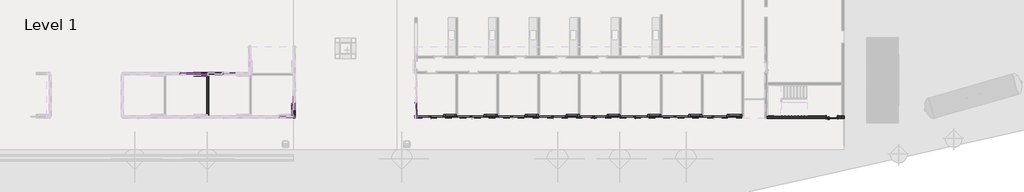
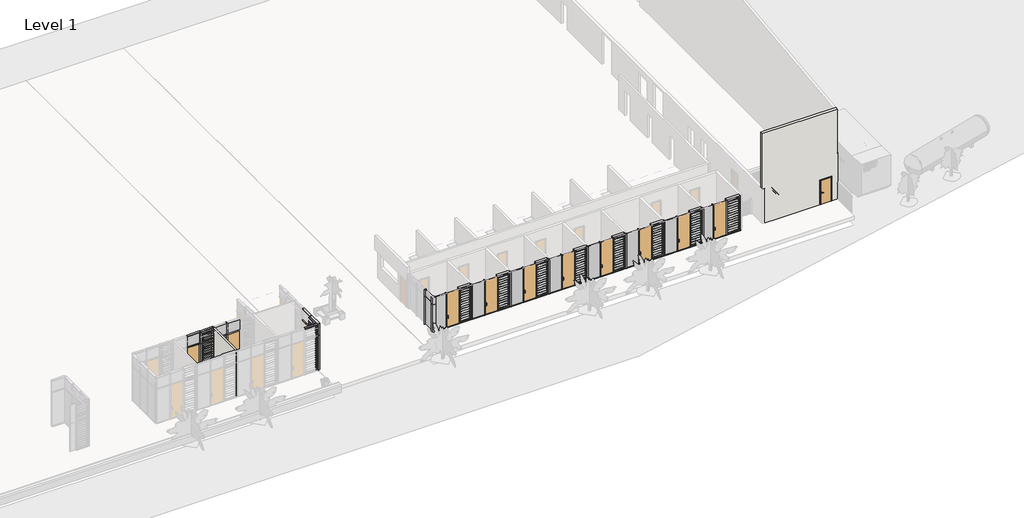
# One storey, part 7 of 32: 73 members, 26 plates, 11 doors, 2 walls.
"""IFC4 building model written with IfcOpenShell, lengths in millimetres."""

from ifc_helpers import new_model, si_unit, frame, origin, place, context, project, spatial, polyline, outline, extrude, faceted_brep, transform, mapped, element, save
from components import curtain_wall_door_single_glass_nz_curtain_wall_door_single_2bf20aac, curtain_wall_door_single_glass_nz_curtain_wall_door_single_d322cbbd, curtain_wall_door_single_glass_nz_curtain_wall_door_single_3e4811c4, curtain_wall_door_single_glass_nz_curtain_wall_door_single_aa36e8cf, curtain_wall_door_single_glass_nz_curtain_wall_door_single_b61deed2, curtain_wall_door_single_glass_nz_curtain_wall_door_single_26af021f, doors_intsgl_1_910x2110mm_80b4a4db, l_corner_mullion_150x150mm_5d950604, l_corner_mullion_150x150mm_810fe6ea, rectangular_mullion_50x150mm_c4504768, rectangular_mullion_50x150mm_6c7cb899, rectangular_mullion_50x150mm_b0af8bb0, rectangular_mullion_50x150mm_bbc1c4ea, rectangular_mullion_50x150mm_1a36453b, rectangular_mullion_50x150mm_108cdc6f, rectangular_mullion_50x150mm_9127f1a2, rectangular_mullion_50x150mm_f3e307f6, rectangular_mullion_50x150mm_ba38f846, rectangular_mullion_50x150mm_f10c6004, rectangular_mullion_50x150mm_11d487aa, rectangular_mullion_50x150mm_eeb88b28, rectangular_mullion_50x150mm_9b1202a5, rectangular_mullion_50x150mm_bb8f6a57, rectangular_mullion_50x150mm_7b3c9b78, rectangular_mullion_50x150mm_370dcb64, rectangular_mullion_50x150mm_0d540e17, rectangular_mullion_50x150mm_1881577e, rectangular_mullion_50x150mm_68c91185, rectangular_mullion_50x150mm_6225e4e3, rectangular_mullion_50x150mm_68b3818a, curtain_wall_panel_louver_20805_curtain_wall_panel_louver_4af505d4, curtain_wall_panel_louver_20805_curtain_wall_panel_louver_10796ba8, curtain_wall_panel_glass_louver_20805_curtain_wall_panel_036772b2, curtain_wall_panel_glass_louver_20805_curtain_wall_panel_84bde982, curtain_wall_panel_glass_louver_20805_curtain_wall_panel_126ace13, curtain_wall_panel_glass_louver_20805_curtain_wall_panel_097e2ed9, curtain_wall_panel_glass_louver_20805_curtain_wall_panel_a56f4312, curtain_wall_panel_glass_louver_20805_curtain_wall_panel_7c52035e, curtain_wall_panel_glass_louver_20805_curtain_wall_panel_cdbae222, system_panel_glazed_d56a7fb9, system_panel_glazed_a5e8ce8b, system_panel_glazed_dbd04f36, system_panel_glazed_2b3f69d1, system_panel_glazed_ec733d0a, system_panel_glazed_cc32df39, system_panel_glazed_daea1d03, system_panel_glazed_1be11d23, system_panel_solid_585523e5

model = new_model("IFC4")

# Units and contexts
model_context = context("Model", 3, world=origin())
ifc_project = project(units=[si_unit("LENGTHUNIT", "METRE", prefix="MILLI")], contexts=[model_context])

# Site, building, storey
site = spatial("IfcSite", under=ifc_project)
building = spatial("IfcBuilding", under=site)
storey = spatial("IfcBuildingStorey", under=building, Name="Level 1", Elevation=2800.0)

# Doors
placement = place(None, origin())
curtain_wall_door_single_glass_nz_curtain_wall_door_single_shape = curtain_wall_door_single_glass_nz_curtain_wall_door_single_2bf20aac(model_context)
element("IfcDoor", 1, ObjectType="Curtain Wall Door-Single-Glass (NZ) : Curtain Wall Door-Single-Glass (NZ)", at=placement, inside=storey, context=model_context, shape_type="MappedRepresentation", body=[
    mapped(curtain_wall_door_single_glass_nz_curtain_wall_door_single_shape, transform((-60180.3056755, -29943.4199596, 2850.0), x_axis=(1.0, 0.0, 0.0), y_axis=(0.0, 1.0, 0.0), z_axis=(0.0, 0.0, 1.0))),
])
element("IfcDoor", 2, ObjectType="Curtain Wall Door-Single-Glass (NZ) : Curtain Wall Door-Single-Glass (NZ)", at=placement, inside=storey, context=model_context, shape_type="MappedRepresentation", body=[
    mapped(curtain_wall_door_single_glass_nz_curtain_wall_door_single_shape, transform((-63480.3056756, -29943.4199596, 2850.0), x_axis=(1.0, 0.0, 0.0), y_axis=(0.0, 1.0, 0.0), z_axis=(0.0, 0.0, 1.0))),
])
curtain_wall_door_single_glass_nz_curtain_wall_door_single_2_shape = curtain_wall_door_single_glass_nz_curtain_wall_door_single_d322cbbd(model_context)
element("IfcDoor", 3, ObjectType="Curtain Wall Door-Single-Glass (NZ) : Curtain Wall Door-Single-Glass (NZ)", at=placement, inside=storey, context=model_context, shape_type="MappedRepresentation", body=[
    mapped(curtain_wall_door_single_glass_nz_curtain_wall_door_single_2_shape, transform((-25313.1839353, -33305.9199596, 2850.0), x_axis=(1.0, 0.0, 0.0), y_axis=(0.0, 1.0, 0.0), z_axis=(0.0, 0.0, 1.0))),
])
curtain_wall_door_single_glass_nz_curtain_wall_door_single_3_shape = curtain_wall_door_single_glass_nz_curtain_wall_door_single_3e4811c4(model_context)
element("IfcDoor", 4, ObjectType="Curtain Wall Door-Single-Glass (NZ) : Curtain Wall Door-Single-Glass (NZ)", at=placement, inside=storey, context=model_context, shape_type="MappedRepresentation", body=[
    mapped(curtain_wall_door_single_glass_nz_curtain_wall_door_single_3_shape, transform((-28463.1839353, -33305.9199596, 2850.0), x_axis=(1.0, 0.0, 0.0), y_axis=(0.0, 1.0, 0.0), z_axis=(0.0, 0.0, 1.0))),
])
curtain_wall_door_single_glass_nz_curtain_wall_door_single_4_shape = curtain_wall_door_single_glass_nz_curtain_wall_door_single_aa36e8cf(model_context)
element("IfcDoor", 5, ObjectType="Curtain Wall Door-Single-Glass (NZ) : Curtain Wall Door-Single-Glass (NZ)", at=placement, inside=storey, context=model_context, shape_type="MappedRepresentation", body=[
    mapped(curtain_wall_door_single_glass_nz_curtain_wall_door_single_4_shape, transform((-31610.9339353, -33305.9199596, 2850.0), x_axis=(1.0, 0.0, 0.0), y_axis=(0.0, 1.0, 0.0), z_axis=(0.0, 0.0, 1.0))),
])
element("IfcDoor", 6, ObjectType="Curtain Wall Door-Single-Glass (NZ) : Curtain Wall Door-Single-Glass (NZ)", at=placement, inside=storey, context=model_context, shape_type="MappedRepresentation", body=[
    mapped(curtain_wall_door_single_glass_nz_curtain_wall_door_single_4_shape, transform((-34760.9339353, -33305.9199596, 2850.0), x_axis=(1.0, 0.0, 0.0), y_axis=(0.0, 1.0, 0.0), z_axis=(0.0, 0.0, 1.0))),
])
element("IfcDoor", 7, ObjectType="Curtain Wall Door-Single-Glass (NZ) : Curtain Wall Door-Single-Glass (NZ)", at=placement, inside=storey, context=model_context, shape_type="MappedRepresentation", body=[
    mapped(curtain_wall_door_single_glass_nz_curtain_wall_door_single_4_shape, transform((-37910.9339353, -33305.9199596, 2850.0), x_axis=(1.0, 0.0, 0.0), y_axis=(0.0, 1.0, 0.0), z_axis=(0.0, 0.0, 1.0))),
])
element("IfcDoor", 8, ObjectType="Curtain Wall Door-Single-Glass (NZ) : Curtain Wall Door-Single-Glass (NZ)", at=placement, inside=storey, context=model_context, shape_type="MappedRepresentation", body=[
    mapped(curtain_wall_door_single_glass_nz_curtain_wall_door_single_4_shape, transform((-41060.9339353, -33305.9199596, 2850.0), x_axis=(1.0, 0.0, 0.0), y_axis=(0.0, 1.0, 0.0), z_axis=(0.0, 0.0, 1.0))),
])
curtain_wall_door_single_glass_nz_curtain_wall_door_single_5_shape = curtain_wall_door_single_glass_nz_curtain_wall_door_single_b61deed2(model_context)
element("IfcDoor", 9, ObjectType="Curtain Wall Door-Single-Glass (NZ) : Curtain Wall Door-Single-Glass (NZ)", at=placement, inside=storey, context=model_context, shape_type="MappedRepresentation", body=[
    mapped(curtain_wall_door_single_glass_nz_curtain_wall_door_single_5_shape, transform((-22360.4339354, -33305.9199596, 2850.0), x_axis=(1.0, 0.0, 0.0), y_axis=(0.0, 1.0, 0.0), z_axis=(0.0, 0.0, 1.0))),
])
curtain_wall_door_single_glass_nz_curtain_wall_door_single_6_shape = curtain_wall_door_single_glass_nz_curtain_wall_door_single_26af021f(model_context)
element("IfcDoor", 10, ObjectType="Curtain Wall Door-Single-Glass (NZ) : Curtain Wall Door-Single-Glass (NZ)", at=placement, inside=storey, context=model_context, shape_type="MappedRepresentation", body=[
    mapped(curtain_wall_door_single_glass_nz_curtain_wall_door_single_6_shape, transform((-44198.1839353, -33305.9199596, 2850.0), x_axis=(1.0, 0.0, 0.0), y_axis=(0.0, 1.0, 0.0), z_axis=(0.0, 0.0, 1.0))),
])
doors_intsgl_1_910x2110mm_shape = doors_intsgl_1_910x2110mm_80b4a4db(model_context)
element("IfcDoor", 11, ObjectType="Doors_IntSgl_1 : 910x2110mm", at=placement, inside=storey, context=model_context, shape_type="MappedRepresentation", body=[
    mapped(doors_intsgl_1_910x2110mm_shape, transform((-13730.9339353, -33305.9199596, 2800.0), x_axis=(1.0, 0.0, 0.0), y_axis=(0.0, 1.0, 0.0), z_axis=(0.0, 0.0, 1.0))),
])

# Members
l_corner_mullion_150x150mm_shape = l_corner_mullion_150x150mm_5d950604(model_context)
element("IfcMember", 12, ObjectType="L Corner Mullion : 150x150mm", at=placement, inside=storey, context=model_context, shape_type="MappedRepresentation", body=[
    mapped(l_corner_mullion_150x150mm_shape, transform((-45785.9339353, -33305.9199596, 2800.0), x_axis=(0.0, -1.0, 0.0), y_axis=(-1.0, 0.0, 0.0), z_axis=(0.0, 0.0, -1.0))),
])
l_corner_mullion_150x150mm_2_shape = l_corner_mullion_150x150mm_810fe6ea(model_context)
element("IfcMember", 13, ObjectType="L Corner Mullion : 150x150mm", at=placement, inside=storey, context=model_context, shape_type="MappedRepresentation", body=[
    mapped(l_corner_mullion_150x150mm_2_shape, transform((-45785.9339353, -33305.9199596, 5200.0), x_axis=(0.0, -1.0, 0.0), y_axis=(-1.0, 0.0, 0.0), z_axis=(0.0, 0.0, -1.0))),
])
rectangular_mullion_50x150mm_shape = rectangular_mullion_50x150mm_c4504768(model_context)
element("IfcMember", 14, ObjectType="Rectangular Mullion : 50x150mm", at=placement, inside=storey, context=model_context, shape_type="MappedRepresentation", body=[
    mapped(rectangular_mullion_50x150mm_shape, transform((-61855.3056756, -29943.4199596, 5800.0), x_axis=(0.0, 0.0, 1.0), y_axis=(0.0, -1.0, 0.0), z_axis=(1.0, 0.0, 0.0))),
])
element("IfcMember", 15, ObjectType="Rectangular Mullion : 50x150mm", at=placement, inside=storey, context=model_context, shape_type="MappedRepresentation", body=[
    mapped(rectangular_mullion_50x150mm_shape, transform((-62955.3056756, -29943.4199596, 5800.0), x_axis=(0.0, 0.0, 1.0), y_axis=(0.0, -1.0, 0.0), z_axis=(1.0, 0.0, 0.0))),
])
rectangular_mullion_50x150mm_2_shape = rectangular_mullion_50x150mm_6c7cb899(model_context)
element("IfcMember", 16, ObjectType="Rectangular Mullion : 50x150mm", at=placement, inside=storey, context=model_context, shape_type="MappedRepresentation", body=[
    mapped(rectangular_mullion_50x150mm_2_shape, transform((-60730.3056755, -29943.4199596, 2800.0), x_axis=(1.0, 0.0, 0.0), y_axis=(0.0, -1.0, 0.0), z_axis=(0.0, 0.0, -1.0))),
])
element("IfcMember", 17, ObjectType="Rectangular Mullion : 50x150mm", at=placement, inside=storey, context=model_context, shape_type="MappedRepresentation", body=[
    mapped(rectangular_mullion_50x150mm_2_shape, transform((-61830.3056756, -29943.4199596, 2800.0), x_axis=(1.0, 0.0, 0.0), y_axis=(0.0, -1.0, 0.0), z_axis=(0.0, 0.0, -1.0))),
])
element("IfcMember", 18, ObjectType="Rectangular Mullion : 50x150mm", at=placement, inside=storey, context=model_context, shape_type="MappedRepresentation", body=[
    mapped(rectangular_mullion_50x150mm_2_shape, transform((-62930.3056756, -29943.4199596, 2800.0), x_axis=(1.0, 0.0, 0.0), y_axis=(0.0, -1.0, 0.0), z_axis=(0.0, 0.0, -1.0))),
])
rectangular_mullion_50x150mm_3_shape = rectangular_mullion_50x150mm_b0af8bb0(model_context)
element("IfcMember", 19, ObjectType="Rectangular Mullion : 50x150mm", at=placement, inside=storey, context=model_context, shape_type="MappedRepresentation", body=[
    mapped(rectangular_mullion_50x150mm_3_shape, transform((-61805.3056756, -29943.4199596, 2800.0), x_axis=(0.0, 0.0, -1.0), y_axis=(0.0, -1.0, 0.0), z_axis=(-1.0, 0.0, 0.0))),
])
element("IfcMember", 20, ObjectType="Rectangular Mullion : 50x150mm", at=placement, inside=storey, context=model_context, shape_type="MappedRepresentation", body=[
    mapped(rectangular_mullion_50x150mm_3_shape, transform((-62905.3056756, -29943.4199596, 2800.0), x_axis=(0.0, 0.0, -1.0), y_axis=(0.0, -1.0, 0.0), z_axis=(-1.0, 0.0, 0.0))),
])
rectangular_mullion_50x150mm_4_shape = rectangular_mullion_50x150mm_bbc1c4ea(model_context)
element("IfcMember", 21, ObjectType="Rectangular Mullion : 50x150mm", at=placement, inside=storey, context=model_context, shape_type="MappedRepresentation", body=[
    mapped(rectangular_mullion_50x150mm_4_shape, transform((-60730.3056755, -29943.4199596, 5800.0), x_axis=(1.0, 0.0, 0.0), y_axis=(0.0, -1.0, 0.0), z_axis=(0.0, 0.0, -1.0))),
])
element("IfcMember", 22, ObjectType="Rectangular Mullion : 50x150mm", at=placement, inside=storey, context=model_context, shape_type="MappedRepresentation", body=[
    mapped(rectangular_mullion_50x150mm_4_shape, transform((-61830.3056756, -29943.4199596, 5800.0), x_axis=(1.0, 0.0, 0.0), y_axis=(0.0, -1.0, 0.0), z_axis=(0.0, 0.0, -1.0))),
])
element("IfcMember", 23, ObjectType="Rectangular Mullion : 50x150mm", at=placement, inside=storey, context=model_context, shape_type="MappedRepresentation", body=[
    mapped(rectangular_mullion_50x150mm_4_shape, transform((-62930.3056756, -29943.4199596, 5800.0), x_axis=(1.0, 0.0, 0.0), y_axis=(0.0, -1.0, 0.0), z_axis=(0.0, 0.0, -1.0))),
])
rectangular_mullion_50x150mm_5_shape = rectangular_mullion_50x150mm_1a36453b(model_context)
element("IfcMember", 24, ObjectType="Rectangular Mullion : 50x150mm", at=placement, inside=storey, context=model_context, shape_type="MappedRepresentation", body=[
    mapped(rectangular_mullion_50x150mm_5_shape, transform((-61855.3056756, -29943.4199596, 6800.0), x_axis=(0.0, 0.0, 1.0), y_axis=(0.0, -1.0, 0.0), z_axis=(1.0, 0.0, 0.0))),
])
element("IfcMember", 25, ObjectType="Rectangular Mullion : 50x150mm", at=placement, inside=storey, context=model_context, shape_type="MappedRepresentation", body=[
    mapped(rectangular_mullion_50x150mm_5_shape, transform((-62955.3056756, -29943.4199596, 6800.0), x_axis=(0.0, 0.0, 1.0), y_axis=(0.0, -1.0, 0.0), z_axis=(1.0, 0.0, 0.0))),
])
rectangular_mullion_50x150mm_6_shape = rectangular_mullion_50x150mm_108cdc6f(model_context)
element("IfcMember", 26, ObjectType="Rectangular Mullion : 50x150mm", at=placement, inside=storey, context=model_context, shape_type="MappedRepresentation", body=[
    mapped(rectangular_mullion_50x150mm_6_shape, transform((-22885.4339354, -33305.9199596, 2800.0), x_axis=(0.0, 0.0, -1.0), y_axis=(0.0, -1.0, 0.0), z_axis=(-1.0, 0.0, 0.0))),
])
rectangular_mullion_50x150mm_7_shape = rectangular_mullion_50x150mm_9127f1a2(model_context)
element("IfcMember", 27, ObjectType="Rectangular Mullion : 50x150mm", at=placement, inside=storey, context=model_context, shape_type="MappedRepresentation", body=[
    mapped(rectangular_mullion_50x150mm_7_shape, transform((-21785.4339354, -33305.9199596, 2800.0), x_axis=(0.0, 0.0, -1.0), y_axis=(0.0, -1.0, 0.0), z_axis=(-1.0, 0.0, 0.0))),
])
rectangular_mullion_50x150mm_8_shape = rectangular_mullion_50x150mm_f3e307f6(model_context)
element("IfcMember", 28, ObjectType="Rectangular Mullion : 50x150mm", at=placement, inside=storey, context=model_context, shape_type="MappedRepresentation", body=[
    mapped(rectangular_mullion_50x150mm_8_shape, transform((-23710.9339353, -33305.9199596, 2800.0), x_axis=(0.0, 0.0, -1.0), y_axis=(0.0, -1.0, 0.0), z_axis=(-1.0, 0.0, 0.0))),
])
rectangular_mullion_50x150mm_9_shape = rectangular_mullion_50x150mm_ba38f846(model_context)
element("IfcMember", 29, ObjectType="Rectangular Mullion : 50x150mm", at=placement, inside=storey, context=model_context, shape_type="MappedRepresentation", body=[
    mapped(rectangular_mullion_50x150mm_9_shape, transform((-26865.4339354, -33305.9199596, 2800.0), x_axis=(0.0, 0.0, -1.0), y_axis=(0.0, -1.0, 0.0), z_axis=(-1.0, 0.0, 0.0))),
])
element("IfcMember", 30, ObjectType="Rectangular Mullion : 50x150mm", at=placement, inside=storey, context=model_context, shape_type="MappedRepresentation", body=[
    mapped(rectangular_mullion_50x150mm_9_shape, transform((-24762.4339353, -33305.9199596, 2800.0), x_axis=(0.0, 0.0, -1.0), y_axis=(0.0, -1.0, 0.0), z_axis=(-1.0, 0.0, 0.0))),
])
element("IfcMember", 31, ObjectType="Rectangular Mullion : 50x150mm", at=placement, inside=storey, context=model_context, shape_type="MappedRepresentation", body=[
    mapped(rectangular_mullion_50x150mm_9_shape, transform((-25813.9339353, -33305.9199596, 2800.0), x_axis=(0.0, 0.0, -1.0), y_axis=(0.0, -1.0, 0.0), z_axis=(-1.0, 0.0, 0.0))),
])
rectangular_mullion_50x150mm_10_shape = rectangular_mullion_50x150mm_f10c6004(model_context)
element("IfcMember", 32, ObjectType="Rectangular Mullion : 50x150mm", at=placement, inside=storey, context=model_context, shape_type="MappedRepresentation", body=[
    mapped(rectangular_mullion_50x150mm_10_shape, transform((-45635.9339353, -33305.9199596, 2800.0), x_axis=(0.0, 0.0, -1.0), y_axis=(0.0, -1.0, 0.0), z_axis=(-1.0, 0.0, 0.0))),
])
rectangular_mullion_50x150mm_11_shape = rectangular_mullion_50x150mm_11d487aa(model_context)
element("IfcMember", 33, ObjectType="Rectangular Mullion : 50x150mm", at=placement, inside=storey, context=model_context, shape_type="MappedRepresentation", body=[
    mapped(rectangular_mullion_50x150mm_11_shape, transform((-44702.4339353, -33305.9199596, 2800.0), x_axis=(0.0, 0.0, -1.0), y_axis=(0.0, -1.0, 0.0), z_axis=(-1.0, 0.0, 0.0))),
])
rectangular_mullion_50x150mm_12_shape = rectangular_mullion_50x150mm_eeb88b28(model_context)
element("IfcMember", 34, ObjectType="Rectangular Mullion : 50x150mm", at=placement, inside=storey, context=model_context, shape_type="MappedRepresentation", body=[
    mapped(rectangular_mullion_50x150mm_12_shape, transform((-31060.9339353, -33305.9199596, 2800.0), x_axis=(0.0, 0.0, -1.0), y_axis=(0.0, -1.0, 0.0), z_axis=(-1.0, 0.0, 0.0))),
])
element("IfcMember", 35, ObjectType="Rectangular Mullion : 50x150mm", at=placement, inside=storey, context=model_context, shape_type="MappedRepresentation", body=[
    mapped(rectangular_mullion_50x150mm_12_shape, transform((-32110.9339353, -33305.9199596, 2800.0), x_axis=(0.0, 0.0, -1.0), y_axis=(0.0, -1.0, 0.0), z_axis=(-1.0, 0.0, 0.0))),
])
element("IfcMember", 36, ObjectType="Rectangular Mullion : 50x150mm", at=placement, inside=storey, context=model_context, shape_type="MappedRepresentation", body=[
    mapped(rectangular_mullion_50x150mm_12_shape, transform((-33160.9339353, -33305.9199596, 2800.0), x_axis=(0.0, 0.0, -1.0), y_axis=(0.0, -1.0, 0.0), z_axis=(-1.0, 0.0, 0.0))),
])
element("IfcMember", 37, ObjectType="Rectangular Mullion : 50x150mm", at=placement, inside=storey, context=model_context, shape_type="MappedRepresentation", body=[
    mapped(rectangular_mullion_50x150mm_12_shape, transform((-34210.9339353, -33305.9199596, 2800.0), x_axis=(0.0, 0.0, -1.0), y_axis=(0.0, -1.0, 0.0), z_axis=(-1.0, 0.0, 0.0))),
])
element("IfcMember", 38, ObjectType="Rectangular Mullion : 50x150mm", at=placement, inside=storey, context=model_context, shape_type="MappedRepresentation", body=[
    mapped(rectangular_mullion_50x150mm_12_shape, transform((-35260.9339353, -33305.9199596, 2800.0), x_axis=(0.0, 0.0, -1.0), y_axis=(0.0, -1.0, 0.0), z_axis=(-1.0, 0.0, 0.0))),
])
element("IfcMember", 39, ObjectType="Rectangular Mullion : 50x150mm", at=placement, inside=storey, context=model_context, shape_type="MappedRepresentation", body=[
    mapped(rectangular_mullion_50x150mm_12_shape, transform((-36310.9339353, -33305.9199596, 2800.0), x_axis=(0.0, 0.0, -1.0), y_axis=(0.0, -1.0, 0.0), z_axis=(-1.0, 0.0, 0.0))),
])
element("IfcMember", 40, ObjectType="Rectangular Mullion : 50x150mm", at=placement, inside=storey, context=model_context, shape_type="MappedRepresentation", body=[
    mapped(rectangular_mullion_50x150mm_12_shape, transform((-37360.9339353, -33305.9199596, 2800.0), x_axis=(0.0, 0.0, -1.0), y_axis=(0.0, -1.0, 0.0), z_axis=(-1.0, 0.0, 0.0))),
])
element("IfcMember", 41, ObjectType="Rectangular Mullion : 50x150mm", at=placement, inside=storey, context=model_context, shape_type="MappedRepresentation", body=[
    mapped(rectangular_mullion_50x150mm_12_shape, transform((-38410.9339353, -33305.9199596, 2800.0), x_axis=(0.0, 0.0, -1.0), y_axis=(0.0, -1.0, 0.0), z_axis=(-1.0, 0.0, 0.0))),
])
element("IfcMember", 42, ObjectType="Rectangular Mullion : 50x150mm", at=placement, inside=storey, context=model_context, shape_type="MappedRepresentation", body=[
    mapped(rectangular_mullion_50x150mm_12_shape, transform((-39460.9339353, -33305.9199596, 2800.0), x_axis=(0.0, 0.0, -1.0), y_axis=(0.0, -1.0, 0.0), z_axis=(-1.0, 0.0, 0.0))),
])
element("IfcMember", 43, ObjectType="Rectangular Mullion : 50x150mm", at=placement, inside=storey, context=model_context, shape_type="MappedRepresentation", body=[
    mapped(rectangular_mullion_50x150mm_12_shape, transform((-40510.9339353, -33305.9199596, 2800.0), x_axis=(0.0, 0.0, -1.0), y_axis=(0.0, -1.0, 0.0), z_axis=(-1.0, 0.0, 0.0))),
])
element("IfcMember", 44, ObjectType="Rectangular Mullion : 50x150mm", at=placement, inside=storey, context=model_context, shape_type="MappedRepresentation", body=[
    mapped(rectangular_mullion_50x150mm_12_shape, transform((-41560.9339353, -33305.9199596, 2800.0), x_axis=(0.0, 0.0, -1.0), y_axis=(0.0, -1.0, 0.0), z_axis=(-1.0, 0.0, 0.0))),
])
element("IfcMember", 45, ObjectType="Rectangular Mullion : 50x150mm", at=placement, inside=storey, context=model_context, shape_type="MappedRepresentation", body=[
    mapped(rectangular_mullion_50x150mm_12_shape, transform((-42610.9339353, -33305.9199596, 2800.0), x_axis=(0.0, 0.0, -1.0), y_axis=(0.0, -1.0, 0.0), z_axis=(-1.0, 0.0, 0.0))),
])
rectangular_mullion_50x150mm_13_shape = rectangular_mullion_50x150mm_9b1202a5(model_context)
element("IfcMember", 46, ObjectType="Rectangular Mullion : 50x150mm", at=placement, inside=storey, context=model_context, shape_type="MappedRepresentation", body=[
    mapped(rectangular_mullion_50x150mm_13_shape, transform((-43643.9339353, -33305.9199596, 2800.0), x_axis=(0.0, 0.0, -1.0), y_axis=(0.0, -1.0, 0.0), z_axis=(-1.0, 0.0, 0.0))),
])
rectangular_mullion_50x150mm_14_shape = rectangular_mullion_50x150mm_bb8f6a57(model_context)
element("IfcMember", 47, ObjectType="Rectangular Mullion : 50x150mm", at=placement, inside=storey, context=model_context, shape_type="MappedRepresentation", body=[
    mapped(rectangular_mullion_50x150mm_14_shape, transform((-27913.9339353, -33305.9199596, 2800.0), x_axis=(0.0, 0.0, -1.0), y_axis=(0.0, -1.0, 0.0), z_axis=(-1.0, 0.0, 0.0))),
])
element("IfcMember", 48, ObjectType="Rectangular Mullion : 50x150mm", at=placement, inside=storey, context=model_context, shape_type="MappedRepresentation", body=[
    mapped(rectangular_mullion_50x150mm_14_shape, transform((-28962.4339353, -33305.9199596, 2800.0), x_axis=(0.0, 0.0, -1.0), y_axis=(0.0, -1.0, 0.0), z_axis=(-1.0, 0.0, 0.0))),
])
element("IfcMember", 49, ObjectType="Rectangular Mullion : 50x150mm", at=placement, inside=storey, context=model_context, shape_type="MappedRepresentation", body=[
    mapped(rectangular_mullion_50x150mm_14_shape, transform((-30010.9339353, -33305.9199596, 2800.0), x_axis=(0.0, 0.0, -1.0), y_axis=(0.0, -1.0, 0.0), z_axis=(-1.0, 0.0, 0.0))),
])
rectangular_mullion_50x150mm_15_shape = rectangular_mullion_50x150mm_7b3c9b78(model_context)
element("IfcMember", 50, ObjectType="Rectangular Mullion : 50x150mm", at=placement, inside=storey, context=model_context, shape_type="MappedRepresentation", body=[
    mapped(rectangular_mullion_50x150mm_15_shape, transform((-55230.3056755, -33305.9199596, 6800.0), x_axis=(0.0, 0.0, 1.0), y_axis=(0.0, -1.0, 0.0), z_axis=(1.0, 0.0, 0.0))),
])
rectangular_mullion_50x150mm_16_shape = rectangular_mullion_50x150mm_370dcb64(model_context)
element("IfcMember", 51, ObjectType="Rectangular Mullion : 50x150mm", at=placement, inside=storey, context=model_context, shape_type="MappedRepresentation", body=[
    mapped(rectangular_mullion_50x150mm_16_shape, transform((-55155.3056755, -33305.4199596, 6800.0), x_axis=(0.0, 0.0, 1.0), y_axis=(-1.0, 0.0, 0.0), z_axis=(0.0, -1.0, 0.0))),
])
rectangular_mullion_50x150mm_17_shape = rectangular_mullion_50x150mm_0d540e17(model_context)
element("IfcMember", 52, ObjectType="Rectangular Mullion : 50x150mm", at=placement, inside=storey, context=model_context, shape_type="MappedRepresentation", body=[
    mapped(rectangular_mullion_50x150mm_17_shape, transform((-55155.3056755, -32180.9199597, 5800.0), x_axis=(0.0, 0.0, 1.0), y_axis=(-1.0, 0.0, 0.0), z_axis=(0.0, -1.0, 0.0))),
])
element("IfcMember", 53, ObjectType="Rectangular Mullion : 50x150mm", at=placement, inside=storey, context=model_context, shape_type="MappedRepresentation", body=[
    mapped(rectangular_mullion_50x150mm_5_shape, transform((-55155.3056755, -32180.9199597, 6800.0), x_axis=(0.0, 0.0, 1.0), y_axis=(-1.0, 0.0, 0.0), z_axis=(0.0, -1.0, 0.0))),
])
element("IfcMember", 54, ObjectType="Rectangular Mullion : 50x150mm", at=placement, inside=storey, context=model_context, shape_type="MappedRepresentation", body=[
    mapped(rectangular_mullion_50x150mm_4_shape, transform((-55155.3056755, -32205.9199597, 5800.0), x_axis=(0.0, -1.0, 0.0), y_axis=(-1.0, 0.0, 0.0), z_axis=(0.0, 0.0, -1.0))),
])
element("IfcMember", 55, ObjectType="Rectangular Mullion : 50x150mm", at=placement, inside=storey, context=model_context, shape_type="MappedRepresentation", body=[
    mapped(rectangular_mullion_50x150mm_2_shape, transform((-55155.3056755, -32205.9199597, 2800.0), x_axis=(0.0, -1.0, 0.0), y_axis=(-1.0, 0.0, 0.0), z_axis=(0.0, 0.0, -1.0))),
])
rectangular_mullion_50x150mm_18_shape = rectangular_mullion_50x150mm_1881577e(model_context)
element("IfcMember", 56, ObjectType="Rectangular Mullion : 50x150mm", at=placement, inside=storey, context=model_context, shape_type="MappedRepresentation", body=[
    mapped(rectangular_mullion_50x150mm_18_shape, transform((-55155.3056755, -33305.4199596, 5800.0), x_axis=(0.0, 0.0, 1.0), y_axis=(-1.0, 0.0, 0.0), z_axis=(0.0, -1.0, 0.0))),
])
element("IfcMember", 57, ObjectType="Rectangular Mullion : 50x150mm", at=placement, inside=storey, context=model_context, shape_type="MappedRepresentation", body=[
    mapped(rectangular_mullion_50x150mm_16_shape, transform((-55155.3056755, -32230.9199597, 2800.0), x_axis=(0.0, 0.0, -1.0), y_axis=(-1.0, 0.0, 0.0), z_axis=(0.0, 1.0, 0.0))),
])
element("IfcMember", 58, ObjectType="Rectangular Mullion : 50x150mm", at=placement, inside=storey, context=model_context, shape_type="MappedRepresentation", body=[
    mapped(rectangular_mullion_50x150mm_12_shape, transform((-55155.3056755, -33355.4199596, 5800.0), x_axis=(0.0, -1.0, 0.0), y_axis=(-1.0, 0.0, 0.0), z_axis=(0.0, 0.0, -1.0))),
])
rectangular_mullion_50x150mm_19_shape = rectangular_mullion_50x150mm_68c91185(model_context)
element("IfcMember", 59, ObjectType="Rectangular Mullion : 50x150mm", at=placement, inside=storey, context=model_context, shape_type="MappedRepresentation", body=[
    mapped(rectangular_mullion_50x150mm_19_shape, transform((-55155.3056755, -33355.4199596, 2800.0), x_axis=(0.0, -1.0, 0.0), y_axis=(-1.0, 0.0, 0.0), z_axis=(0.0, 0.0, -1.0))),
])
element("IfcMember", 60, ObjectType="Rectangular Mullion : 50x150mm", at=placement, inside=storey, context=model_context, shape_type="MappedRepresentation", body=[
    mapped(rectangular_mullion_50x150mm_2_shape, transform((-25838.9339353, -33305.9199596, 2800.0), x_axis=(1.0, 0.0, 0.0), y_axis=(0.0, -1.0, 0.0), z_axis=(0.0, 0.0, -1.0))),
])
element("IfcMember", 61, ObjectType="Rectangular Mullion : 50x150mm", at=placement, inside=storey, context=model_context, shape_type="MappedRepresentation", body=[
    mapped(rectangular_mullion_50x150mm_2_shape, transform((-24787.4339353, -33305.9199596, 2800.0), x_axis=(1.0, 0.0, 0.0), y_axis=(0.0, -1.0, 0.0), z_axis=(0.0, 0.0, -1.0))),
])
element("IfcMember", 62, ObjectType="Rectangular Mullion : 50x150mm", at=placement, inside=storey, context=model_context, shape_type="MappedRepresentation", body=[
    mapped(rectangular_mullion_50x150mm_2_shape, transform((-26890.4339354, -33305.9199596, 2800.0), x_axis=(1.0, 0.0, 0.0), y_axis=(0.0, -1.0, 0.0), z_axis=(0.0, 0.0, -1.0))),
])
element("IfcMember", 63, ObjectType="Rectangular Mullion : 50x150mm", at=placement, inside=storey, context=model_context, shape_type="MappedRepresentation", body=[
    mapped(rectangular_mullion_50x150mm_2_shape, transform((-23735.9339353, -33305.9199596, 2800.0), x_axis=(1.0, 0.0, 0.0), y_axis=(0.0, -1.0, 0.0), z_axis=(0.0, 0.0, -1.0))),
])
element("IfcMember", 64, ObjectType="Rectangular Mullion : 50x150mm", at=placement, inside=storey, context=model_context, shape_type="MappedRepresentation", body=[
    mapped(rectangular_mullion_50x150mm_2_shape, transform((-27938.9339353, -33305.9199596, 2800.0), x_axis=(1.0, 0.0, 0.0), y_axis=(0.0, -1.0, 0.0), z_axis=(0.0, 0.0, -1.0))),
])
element("IfcMember", 65, ObjectType="Rectangular Mullion : 50x150mm", at=placement, inside=storey, context=model_context, shape_type="MappedRepresentation", body=[
    mapped(rectangular_mullion_50x150mm_2_shape, transform((-28987.4339353, -33305.9199596, 2800.0), x_axis=(1.0, 0.0, 0.0), y_axis=(0.0, -1.0, 0.0), z_axis=(0.0, 0.0, -1.0))),
])
element("IfcMember", 66, ObjectType="Rectangular Mullion : 50x150mm", at=placement, inside=storey, context=model_context, shape_type="MappedRepresentation", body=[
    mapped(rectangular_mullion_50x150mm_2_shape, transform((-30035.9339353, -33305.9199596, 2800.0), x_axis=(1.0, 0.0, 0.0), y_axis=(0.0, -1.0, 0.0), z_axis=(0.0, 0.0, -1.0))),
])
element("IfcMember", 67, ObjectType="Rectangular Mullion : 50x150mm", at=placement, inside=storey, context=model_context, shape_type="MappedRepresentation", body=[
    mapped(rectangular_mullion_50x150mm_2_shape, transform((-31085.9339353, -33305.9199596, 2800.0), x_axis=(1.0, 0.0, 0.0), y_axis=(0.0, -1.0, 0.0), z_axis=(0.0, 0.0, -1.0))),
])
element("IfcMember", 68, ObjectType="Rectangular Mullion : 50x150mm", at=placement, inside=storey, context=model_context, shape_type="MappedRepresentation", body=[
    mapped(rectangular_mullion_50x150mm_2_shape, transform((-32135.9339353, -33305.9199596, 2800.0), x_axis=(1.0, 0.0, 0.0), y_axis=(0.0, -1.0, 0.0), z_axis=(0.0, 0.0, -1.0))),
])
element("IfcMember", 69, ObjectType="Rectangular Mullion : 50x150mm", at=placement, inside=storey, context=model_context, shape_type="MappedRepresentation", body=[
    mapped(rectangular_mullion_50x150mm_2_shape, transform((-22910.4339354, -33305.9199596, 2800.0), x_axis=(1.0, 0.0, 0.0), y_axis=(0.0, -1.0, 0.0), z_axis=(0.0, 0.0, -1.0))),
])
element("IfcMember", 70, ObjectType="Rectangular Mullion : 50x150mm", at=placement, inside=storey, context=model_context, shape_type="MappedRepresentation", body=[
    mapped(rectangular_mullion_50x150mm_2_shape, transform((-21810.4339354, -33305.9199596, 2800.0), x_axis=(1.0, 0.0, 0.0), y_axis=(0.0, -1.0, 0.0), z_axis=(0.0, 0.0, -1.0))),
])
element("IfcMember", 71, ObjectType="Rectangular Mullion : 50x150mm", at=placement, inside=storey, context=model_context, shape_type="MappedRepresentation", body=[
    mapped(rectangular_mullion_50x150mm_2_shape, transform((-44727.4339353, -33305.9199596, 2800.0), x_axis=(1.0, 0.0, 0.0), y_axis=(0.0, -1.0, 0.0), z_axis=(0.0, 0.0, -1.0))),
])
element("IfcMember", 72, ObjectType="Rectangular Mullion : 50x150mm", at=placement, inside=storey, context=model_context, shape_type="MappedRepresentation", body=[
    mapped(rectangular_mullion_50x150mm_2_shape, transform((-43668.9339353, -33305.9199596, 2800.0), x_axis=(1.0, 0.0, 0.0), y_axis=(0.0, -1.0, 0.0), z_axis=(0.0, 0.0, -1.0))),
])
element("IfcMember", 73, ObjectType="Rectangular Mullion : 50x150mm", at=placement, inside=storey, context=model_context, shape_type="MappedRepresentation", body=[
    mapped(rectangular_mullion_50x150mm_2_shape, transform((-41585.9339353, -33305.9199596, 2800.0), x_axis=(1.0, 0.0, 0.0), y_axis=(0.0, -1.0, 0.0), z_axis=(0.0, 0.0, -1.0))),
])
element("IfcMember", 74, ObjectType="Rectangular Mullion : 50x150mm", at=placement, inside=storey, context=model_context, shape_type="MappedRepresentation", body=[
    mapped(rectangular_mullion_50x150mm_2_shape, transform((-42635.9339353, -33305.9199596, 2800.0), x_axis=(1.0, 0.0, 0.0), y_axis=(0.0, -1.0, 0.0), z_axis=(0.0, 0.0, -1.0))),
])
element("IfcMember", 75, ObjectType="Rectangular Mullion : 50x150mm", at=placement, inside=storey, context=model_context, shape_type="MappedRepresentation", body=[
    mapped(rectangular_mullion_50x150mm_2_shape, transform((-40535.9339353, -33305.9199596, 2800.0), x_axis=(1.0, 0.0, 0.0), y_axis=(0.0, -1.0, 0.0), z_axis=(0.0, 0.0, -1.0))),
])
element("IfcMember", 76, ObjectType="Rectangular Mullion : 50x150mm", at=placement, inside=storey, context=model_context, shape_type="MappedRepresentation", body=[
    mapped(rectangular_mullion_50x150mm_2_shape, transform((-39485.9339353, -33305.9199596, 2800.0), x_axis=(1.0, 0.0, 0.0), y_axis=(0.0, -1.0, 0.0), z_axis=(0.0, 0.0, -1.0))),
])
element("IfcMember", 77, ObjectType="Rectangular Mullion : 50x150mm", at=placement, inside=storey, context=model_context, shape_type="MappedRepresentation", body=[
    mapped(rectangular_mullion_50x150mm_2_shape, transform((-38435.9339353, -33305.9199596, 2800.0), x_axis=(1.0, 0.0, 0.0), y_axis=(0.0, -1.0, 0.0), z_axis=(0.0, 0.0, -1.0))),
])
element("IfcMember", 78, ObjectType="Rectangular Mullion : 50x150mm", at=placement, inside=storey, context=model_context, shape_type="MappedRepresentation", body=[
    mapped(rectangular_mullion_50x150mm_2_shape, transform((-37385.9339353, -33305.9199596, 2800.0), x_axis=(1.0, 0.0, 0.0), y_axis=(0.0, -1.0, 0.0), z_axis=(0.0, 0.0, -1.0))),
])
element("IfcMember", 79, ObjectType="Rectangular Mullion : 50x150mm", at=placement, inside=storey, context=model_context, shape_type="MappedRepresentation", body=[
    mapped(rectangular_mullion_50x150mm_2_shape, transform((-36335.9339353, -33305.9199596, 2800.0), x_axis=(1.0, 0.0, 0.0), y_axis=(0.0, -1.0, 0.0), z_axis=(0.0, 0.0, -1.0))),
])
element("IfcMember", 80, ObjectType="Rectangular Mullion : 50x150mm", at=placement, inside=storey, context=model_context, shape_type="MappedRepresentation", body=[
    mapped(rectangular_mullion_50x150mm_2_shape, transform((-35285.9339353, -33305.9199596, 2800.0), x_axis=(1.0, 0.0, 0.0), y_axis=(0.0, -1.0, 0.0), z_axis=(0.0, 0.0, -1.0))),
])
element("IfcMember", 81, ObjectType="Rectangular Mullion : 50x150mm", at=placement, inside=storey, context=model_context, shape_type="MappedRepresentation", body=[
    mapped(rectangular_mullion_50x150mm_2_shape, transform((-34235.9339353, -33305.9199596, 2800.0), x_axis=(1.0, 0.0, 0.0), y_axis=(0.0, -1.0, 0.0), z_axis=(0.0, 0.0, -1.0))),
])
element("IfcMember", 82, ObjectType="Rectangular Mullion : 50x150mm", at=placement, inside=storey, context=model_context, shape_type="MappedRepresentation", body=[
    mapped(rectangular_mullion_50x150mm_2_shape, transform((-33185.9339353, -33305.9199596, 2800.0), x_axis=(1.0, 0.0, 0.0), y_axis=(0.0, -1.0, 0.0), z_axis=(0.0, 0.0, -1.0))),
])
rectangular_mullion_50x150mm_20_shape = rectangular_mullion_50x150mm_6225e4e3(model_context)
element("IfcMember", 83, ObjectType="Rectangular Mullion : 50x150mm", at=placement, inside=storey, context=model_context, shape_type="MappedRepresentation", body=[
    mapped(rectangular_mullion_50x150mm_20_shape, transform((-45785.9339353, -32180.9199595, 2800.0), x_axis=(0.0, -1.0, 0.0), y_axis=(-1.0, 0.0, 0.0), z_axis=(0.0, 0.0, -1.0))),
])
rectangular_mullion_50x150mm_21_shape = rectangular_mullion_50x150mm_68b3818a(model_context)
element("IfcMember", 84, ObjectType="Rectangular Mullion : 50x150mm", at=placement, inside=storey, context=model_context, shape_type="MappedRepresentation", body=[
    mapped(rectangular_mullion_50x150mm_21_shape, transform((-45785.9339353, -32180.9199595, 5200.0), x_axis=(0.0, -1.0, 0.0), y_axis=(-1.0, 0.0, 0.0), z_axis=(0.0, 0.0, -1.0))),
])

# Plates
curtain_wall_panel_louver_20805_curtain_wall_panel_louver_shape = curtain_wall_panel_louver_20805_curtain_wall_panel_louver_4af505d4(model_context)
element("IfcPlate", 85, ObjectType="Curtain_wall_panel_-_Louver_20805 : Curtain_wall_panel_-_Louver_20805", at=placement, inside=storey, context=model_context, shape_type="MappedRepresentation", body=[
    mapped(curtain_wall_panel_louver_20805_curtain_wall_panel_louver_shape, transform((-62380.3056756, -29943.4199596, 5825.0), x_axis=(1.0, 0.0, 0.0), y_axis=(0.0, 1.0, 0.0), z_axis=(0.0, 0.0, 1.0))),
])
curtain_wall_panel_louver_20805_curtain_wall_panel_louver_2_shape = curtain_wall_panel_louver_20805_curtain_wall_panel_louver_10796ba8(model_context)
element("IfcPlate", 86, ObjectType="Curtain_wall_panel_-_Louver_20805 : Curtain_wall_panel_-_Louver_20805", at=placement, inside=storey, context=model_context, shape_type="MappedRepresentation", body=[
    mapped(curtain_wall_panel_louver_20805_curtain_wall_panel_louver_2_shape, transform((-55155.3056755, -32768.1699597, 5825.0), x_axis=(0.0, -1.0, 0.0), y_axis=(1.0, 0.0, 0.0), z_axis=(0.0, 0.0, 1.0))),
])
curtain_wall_panel_glass_louver_20805_curtain_wall_panel_shape = curtain_wall_panel_glass_louver_20805_curtain_wall_panel_036772b2(model_context)
element("IfcPlate", 87, ObjectType="Curtain_wall_panel_glass_Louver_20805 : Curtain_wall_panel_glass_Louver_20805", at=placement, inside=storey, context=model_context, shape_type="MappedRepresentation", body=[
    mapped(curtain_wall_panel_glass_louver_20805_curtain_wall_panel_shape, transform((-62380.3056756, -29943.4199596, 2850.0), x_axis=(1.0, 0.0, 0.0), y_axis=(0.0, 1.0, 0.0), z_axis=(0.0, 0.0, 1.0))),
])
curtain_wall_panel_glass_louver_20805_curtain_wall_panel_2_shape = curtain_wall_panel_glass_louver_20805_curtain_wall_panel_84bde982(model_context)
element("IfcPlate", 88, ObjectType="Curtain_wall_panel_glass_Louver_20805 : Curtain_wall_panel_glass_Louver_20805", at=placement, inside=storey, context=model_context, shape_type="MappedRepresentation", body=[
    mapped(curtain_wall_panel_glass_louver_20805_curtain_wall_panel_2_shape, transform((-55155.3056755, -32768.1699597, 2850.0), x_axis=(0.0, -1.0, 0.0), y_axis=(1.0, 0.0, 0.0), z_axis=(0.0, 0.0, 1.0))),
])
curtain_wall_panel_glass_louver_20805_curtain_wall_panel_3_shape = curtain_wall_panel_glass_louver_20805_curtain_wall_panel_126ace13(model_context)
element("IfcPlate", 89, ObjectType="Curtain_wall_panel_glass_Louver_20805 : Curtain_wall_panel_glass_Louver_20805", at=placement, inside=storey, context=model_context, shape_type="MappedRepresentation", body=[
    mapped(curtain_wall_panel_glass_louver_20805_curtain_wall_panel_3_shape, transform((-24261.6839353, -33305.9199596, 2850.0), x_axis=(1.0, 0.0, 0.0), y_axis=(0.0, 1.0, 0.0), z_axis=(0.0, 0.0, 1.0))),
])
curtain_wall_panel_glass_louver_20805_curtain_wall_panel_4_shape = curtain_wall_panel_glass_louver_20805_curtain_wall_panel_097e2ed9(model_context)
element("IfcPlate", 90, ObjectType="Curtain_wall_panel_glass_Louver_20805 : Curtain_wall_panel_glass_Louver_20805", at=placement, inside=storey, context=model_context, shape_type="MappedRepresentation", body=[
    mapped(curtain_wall_panel_glass_louver_20805_curtain_wall_panel_4_shape, transform((-21223.1839353, -33305.9199596, 2850.0), x_axis=(1.0, 0.0, 0.0), y_axis=(0.0, 1.0, 0.0), z_axis=(0.0, 0.0, 1.0))),
])
curtain_wall_panel_glass_louver_20805_curtain_wall_panel_5_shape = curtain_wall_panel_glass_louver_20805_curtain_wall_panel_a56f4312(model_context)
element("IfcPlate", 91, ObjectType="Curtain_wall_panel_glass_Louver_20805 : Curtain_wall_panel_glass_Louver_20805", at=placement, inside=storey, context=model_context, shape_type="MappedRepresentation", body=[
    mapped(curtain_wall_panel_glass_louver_20805_curtain_wall_panel_5_shape, transform((-27414.6839354, -33305.9199596, 2850.0), x_axis=(1.0, 0.0, 0.0), y_axis=(0.0, 1.0, 0.0), z_axis=(0.0, 0.0, 1.0))),
])
curtain_wall_panel_glass_louver_20805_curtain_wall_panel_6_shape = curtain_wall_panel_glass_louver_20805_curtain_wall_panel_7c52035e(model_context)
element("IfcPlate", 92, ObjectType="Curtain_wall_panel_glass_Louver_20805 : Curtain_wall_panel_glass_Louver_20805", at=placement, inside=storey, context=model_context, shape_type="MappedRepresentation", body=[
    mapped(curtain_wall_panel_glass_louver_20805_curtain_wall_panel_6_shape, transform((-30560.9339353, -33305.9199596, 2850.0), x_axis=(1.0, 0.0, 0.0), y_axis=(0.0, 1.0, 0.0), z_axis=(0.0, 0.0, 1.0))),
])
element("IfcPlate", 93, ObjectType="Curtain_wall_panel_glass_Louver_20805 : Curtain_wall_panel_glass_Louver_20805", at=placement, inside=storey, context=model_context, shape_type="MappedRepresentation", body=[
    mapped(curtain_wall_panel_glass_louver_20805_curtain_wall_panel_6_shape, transform((-33710.9339353, -33305.9199596, 2850.0), x_axis=(1.0, 0.0, 0.0), y_axis=(0.0, 1.0, 0.0), z_axis=(0.0, 0.0, 1.0))),
])
element("IfcPlate", 94, ObjectType="Curtain_wall_panel_glass_Louver_20805 : Curtain_wall_panel_glass_Louver_20805", at=placement, inside=storey, context=model_context, shape_type="MappedRepresentation", body=[
    mapped(curtain_wall_panel_glass_louver_20805_curtain_wall_panel_6_shape, transform((-36860.9339353, -33305.9199596, 2850.0), x_axis=(1.0, 0.0, 0.0), y_axis=(0.0, 1.0, 0.0), z_axis=(0.0, 0.0, 1.0))),
])
element("IfcPlate", 95, ObjectType="Curtain_wall_panel_glass_Louver_20805 : Curtain_wall_panel_glass_Louver_20805", at=placement, inside=storey, context=model_context, shape_type="MappedRepresentation", body=[
    mapped(curtain_wall_panel_glass_louver_20805_curtain_wall_panel_6_shape, transform((-40010.9339353, -33305.9199596, 2850.0), x_axis=(1.0, 0.0, 0.0), y_axis=(0.0, 1.0, 0.0), z_axis=(0.0, 0.0, 1.0))),
])
curtain_wall_panel_glass_louver_20805_curtain_wall_panel_7_shape = curtain_wall_panel_glass_louver_20805_curtain_wall_panel_cdbae222(model_context)
element("IfcPlate", 96, ObjectType="Curtain_wall_panel_glass_Louver_20805 : Curtain_wall_panel_glass_Louver_20805", at=placement, inside=storey, context=model_context, shape_type="MappedRepresentation", body=[
    mapped(curtain_wall_panel_glass_louver_20805_curtain_wall_panel_7_shape, transform((-43152.4339353, -33305.9199596, 2850.0), x_axis=(1.0, 0.0, 0.0), y_axis=(0.0, 1.0, 0.0), z_axis=(0.0, 0.0, 1.0))),
])
system_panel_glazed_shape = system_panel_glazed_d56a7fb9(model_context)
element("IfcPlate", 97, ObjectType="System Panel : Glazed", at=placement, inside=storey, context=model_context, shape_type="MappedRepresentation", body=[
    mapped(system_panel_glazed_shape, transform((-45785.9339353, -32680.9199596, 2800.0), x_axis=(0.0, -1.0, 0.0), y_axis=(1.0, 0.0, 0.0), z_axis=(0.0, 0.0, 1.0))),
])
system_panel_glazed_2_shape = system_panel_glazed_a5e8ce8b(model_context)
element("IfcPlate", 98, ObjectType="System Panel : Glazed", at=placement, inside=storey, context=model_context, shape_type="MappedRepresentation", body=[
    mapped(system_panel_glazed_2_shape, transform((-61280.3056755, -29943.4199596, 2850.0), x_axis=(1.0, 0.0, 0.0), y_axis=(0.0, 1.0, 0.0), z_axis=(0.0, 0.0, 1.0))),
])
system_panel_glazed_3_shape = system_panel_glazed_dbd04f36(model_context)
element("IfcPlate", 99, ObjectType="System Panel : Glazed", at=placement, inside=storey, context=model_context, shape_type="MappedRepresentation", body=[
    mapped(system_panel_glazed_3_shape, transform((-45194.1839353, -33305.9199596, 2850.0), x_axis=(1.0, 0.0, 0.0), y_axis=(0.0, 1.0, 0.0), z_axis=(0.0, 0.0, 1.0))),
])
system_panel_glazed_4_shape = system_panel_glazed_2b3f69d1(model_context)
element("IfcPlate", 100, ObjectType="System Panel : Glazed", at=placement, inside=storey, context=model_context, shape_type="MappedRepresentation", body=[
    mapped(system_panel_glazed_4_shape, transform((-23323.1839353, -33305.9199596, 2850.0), x_axis=(1.0, 0.0, 0.0), y_axis=(0.0, 1.0, 0.0), z_axis=(0.0, 0.0, 1.0))),
])
system_panel_glazed_5_shape = system_panel_glazed_ec733d0a(model_context)
element("IfcPlate", 101, ObjectType="System Panel : Glazed", at=placement, inside=storey, context=model_context, shape_type="MappedRepresentation", body=[
    mapped(system_panel_glazed_5_shape, transform((-26364.6839354, -33305.9199596, 2850.0), x_axis=(1.0, 0.0, 0.0), y_axis=(0.0, 1.0, 0.0), z_axis=(0.0, 0.0, 1.0))),
])
system_panel_glazed_6_shape = system_panel_glazed_cc32df39(model_context)
element("IfcPlate", 102, ObjectType="System Panel : Glazed", at=placement, inside=storey, context=model_context, shape_type="MappedRepresentation", body=[
    mapped(system_panel_glazed_6_shape, transform((-29511.6839353, -33305.9199596, 2850.0), x_axis=(1.0, 0.0, 0.0), y_axis=(0.0, 1.0, 0.0), z_axis=(0.0, 0.0, 1.0))),
])
system_panel_glazed_7_shape = system_panel_glazed_daea1d03(model_context)
element("IfcPlate", 103, ObjectType="System Panel : Glazed", at=placement, inside=storey, context=model_context, shape_type="MappedRepresentation", body=[
    mapped(system_panel_glazed_7_shape, transform((-32660.9339353, -33305.9199596, 2850.0), x_axis=(1.0, 0.0, 0.0), y_axis=(0.0, 1.0, 0.0), z_axis=(0.0, 0.0, 1.0))),
])
element("IfcPlate", 104, ObjectType="System Panel : Glazed", at=placement, inside=storey, context=model_context, shape_type="MappedRepresentation", body=[
    mapped(system_panel_glazed_7_shape, transform((-35810.9339353, -33305.9199596, 2850.0), x_axis=(1.0, 0.0, 0.0), y_axis=(0.0, 1.0, 0.0), z_axis=(0.0, 0.0, 1.0))),
])
element("IfcPlate", 105, ObjectType="System Panel : Glazed", at=placement, inside=storey, context=model_context, shape_type="MappedRepresentation", body=[
    mapped(system_panel_glazed_7_shape, transform((-38960.9339353, -33305.9199596, 2850.0), x_axis=(1.0, 0.0, 0.0), y_axis=(0.0, 1.0, 0.0), z_axis=(0.0, 0.0, 1.0))),
])
element("IfcPlate", 106, ObjectType="System Panel : Glazed", at=placement, inside=storey, context=model_context, shape_type="MappedRepresentation", body=[
    mapped(system_panel_glazed_7_shape, transform((-42110.9339353, -33305.9199596, 2850.0), x_axis=(1.0, 0.0, 0.0), y_axis=(0.0, 1.0, 0.0), z_axis=(0.0, 0.0, 1.0))),
])
system_panel_glazed_8_shape = system_panel_glazed_1be11d23(model_context)
element("IfcPlate", 107, ObjectType="System Panel : Glazed", at=placement, inside=storey, context=model_context, shape_type="MappedRepresentation", body=[
    mapped(system_panel_glazed_8_shape, transform((-45785.9339353, -32680.9199596, 5200.0), x_axis=(0.0, -1.0, 0.0), y_axis=(1.0, 0.0, 0.0), z_axis=(0.0, 0.0, 1.0))),
])
system_panel_solid_shape = system_panel_solid_585523e5(model_context)
element("IfcPlate", 108, ObjectType="System Panel : Solid", at=placement, inside=storey, context=model_context, shape_type="MappedRepresentation", body=[
    mapped(system_panel_solid_shape, transform((-61280.3056755, -29943.4199596, 5825.0), x_axis=(1.0, 0.0, 0.0), y_axis=(0.0, 1.0, 0.0), z_axis=(0.0, 0.0, 1.0))),
])
element("IfcPlate", 109, ObjectType="System Panel : Solid", at=placement, inside=storey, context=model_context, shape_type="MappedRepresentation", body=[
    mapped(system_panel_solid_shape, transform((-60180.3056755, -29943.4199596, 5825.0), x_axis=(1.0, 0.0, 0.0), y_axis=(0.0, 1.0, 0.0), z_axis=(0.0, 0.0, 1.0))),
])
element("IfcPlate", 110, ObjectType="System Panel : Solid", at=placement, inside=storey, context=model_context, shape_type="MappedRepresentation", body=[
    mapped(system_panel_solid_shape, transform((-63480.3056756, -29943.4199596, 5825.0), x_axis=(1.0, 0.0, 0.0), y_axis=(0.0, 1.0, 0.0), z_axis=(0.0, 0.0, 1.0))),
])

# Walls
element("IfcWall", 111, ObjectType="200cmu", at=placement, inside=storey, context=model_context, shape_type="Brep", body=[
    faceted_brep([(-12760.7705062, -33205.9199596, 6800.0), (-12760.7705062, -33205.9199596, 2800.0), (-12960.7705062, -33205.9199596, 2800.0), (-13275.9339353, -33205.9199596, 2800.0), (-13275.9339353, -33205.9199596, 4910.0), (-14185.9339353, -33205.9199596, 4910.0), (-14185.9339353, -33205.9199596, 2800.0), (-18710.7705062, -33205.9199596, 2800.0), (-18710.7705062, -33205.9199596, 5800.0), (-18910.7705062, -33205.9199596, 5800.0), (-18910.7705062, -33205.9199596, 10619.2398583), (-18710.7705062, -33205.9199596, 10619.2398583), (-12960.7705062, -33205.9199596, 10619.2398583), (-12800.7705062, -33205.9199596, 10619.2398583), (-12800.7705062, -33205.9199596, 6800.0), (-12760.7705062, -33405.9199596, 2800.0), (-12760.7705062, -33405.9199596, 6800.0), (-12800.7705062, -33405.9199596, 6800.0), (-12800.7705062, -33405.9199596, 10594.6829462), (-18910.7705062, -33405.9199596, 10594.6829462), (-18910.7705062, -33405.9199596, 5800.0), (-18710.7705062, -33405.9199596, 5800.0), (-18710.7705062, -33405.9199596, 2800.0), (-14185.9339353, -33405.9199596, 2800.0), (-14185.9339353, -33405.9199596, 4910.0), (-13275.9339353, -33405.9199596, 4910.0), (-13275.9339353, -33405.9199596, 2800.0)], [[[0, 1, 2, 3, 4, 5, 6, 7, 8, 9, 10, 11, 12, 13, 14]], [[15, 16, 17, 18, 19, 20, 21, 22, 23, 24, 25, 26]], [[22, 7, 6, 23]], [[1, 15, 26, 3, 2]], [[1, 0, 16, 15]], [[25, 4, 3, 26]], [[4, 25, 24, 5]], [[5, 24, 23, 6]], [[16, 0, 14, 17]], [[17, 14, 13, 18]], [[13, 12, 11, 10, 19, 18]], [[7, 22, 21, 8]], [[19, 10, 9, 20]], [[9, 8, 21, 20]]]),
])
element("IfcWall", 112, ObjectType="Wall-Partn_12P-100Std-12P", at=placement, inside=storey, context=model_context, shape_type="SweptSolid", body=[
    extrude(outline(polyline([(-61892.8056755, -33305.9199596), (-61892.8056755, -30005.9199596), (-61767.8056755, -30005.9199596), (-61767.8056755, -33305.9199596), (-61892.8056755, -33305.9199596)])), frame((0.0, 0.0, 2800.0), z_axis=(0.0, 0.0, 1.0), x_axis=(1.0, 0.0, 0.0)), (0.0, 0.0, 1.0), 4000.0),
])

save(model, "model.ifc")
